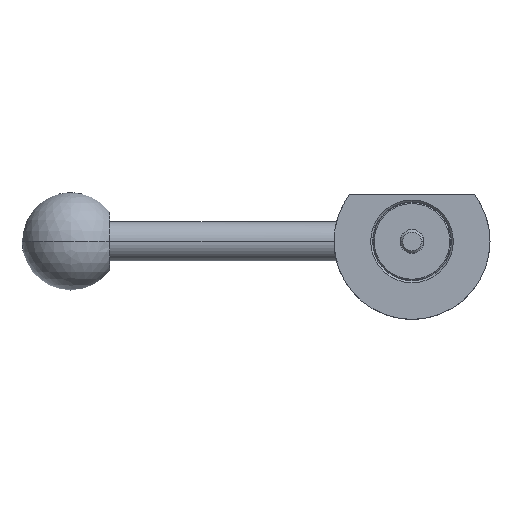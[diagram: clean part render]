
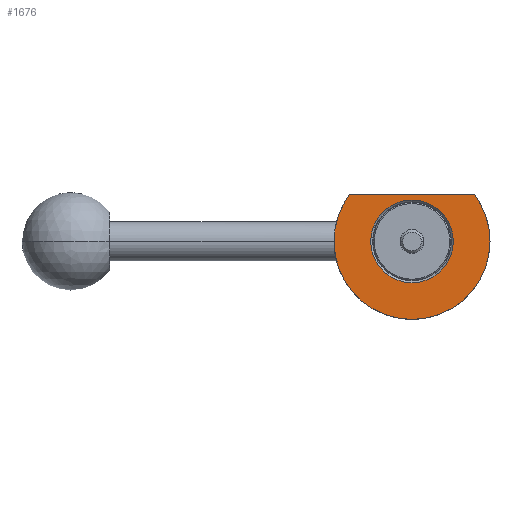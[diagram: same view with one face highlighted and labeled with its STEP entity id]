
A CAD part, front view. The second image highlights one B-rep face of the part: STEP entity #1676.
In plain terms, the highlighted planar face has unit normal (0, -1, 0).
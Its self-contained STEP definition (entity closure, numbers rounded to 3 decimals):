
#8 = DIRECTION ( 'NONE',  ( -1., 0., 0. ) ) ;
#51 = CARTESIAN_POINT ( 'NONE',  ( 10.6, -10., 0. ) ) ;
#90 = DIRECTION ( 'NONE',  ( 0., 1., 0. ) ) ;
#117 = DIRECTION ( 'NONE',  ( 0., 1., 0. ) ) ;
#141 = ORIENTED_EDGE ( 'NONE', *, *, #1747, .T. ) ;
#151 = VERTEX_POINT ( 'NONE', #1686 ) ;
#157 = LINE ( 'NONE', #653, #2001 ) ;
#230 = EDGE_CURVE ( 'NONE', #1684, #1813, #1500, .T. ) ;
#334 = AXIS2_PLACEMENT_3D ( 'NONE', #704, #713, #1202 ) ;
#448 = VERTEX_POINT ( 'NONE', #51 ) ;
#464 = CARTESIAN_POINT ( 'NONE',  ( 16.001, -10., 11.999 ) ) ;
#483 = CARTESIAN_POINT ( 'NONE',  ( -20., -10., 0. ) ) ;
#498 = AXIS2_PLACEMENT_3D ( 'NONE', #1286, #1754, #1505 ) ;
#553 = CARTESIAN_POINT ( 'NONE',  ( 0., -10., 0. ) ) ;
#611 = FACE_OUTER_BOUND ( 'NONE', #1849, .T. ) ;
#651 = EDGE_LOOP ( 'NONE', ( #1058, #919 ) ) ;
#653 = CARTESIAN_POINT ( 'NONE',  ( -10.6, -10., 11.999 ) ) ;
#654 = CARTESIAN_POINT ( 'NONE',  ( 0., -10., 0. ) ) ;
#702 = EDGE_CURVE ( 'NONE', #1813, #1420, #1566, .T. ) ;
#704 = CARTESIAN_POINT ( 'NONE',  ( 0., -10., 0. ) ) ;
#713 = DIRECTION ( 'NONE',  ( 0., 1., 0. ) ) ;
#730 = DIRECTION ( 'NONE',  ( -1., 0., 0. ) ) ;
#809 = EDGE_CURVE ( 'NONE', #1345, #1684, #1399, .T. ) ;
#827 = CIRCLE ( 'NONE', #1660, 10.6 ) ;
#884 = CARTESIAN_POINT ( 'NONE',  ( -10.6, -10., 0. ) ) ;
#898 = ORIENTED_EDGE ( 'NONE', *, *, #702, .F. ) ;
#919 = ORIENTED_EDGE ( 'NONE', *, *, #1206, .T. ) ;
#971 = ORIENTED_EDGE ( 'NONE', *, *, #230, .F. ) ;
#1029 = AXIS2_PLACEMENT_3D ( 'NONE', #884, #1118, #1287 ) ;
#1043 = PLANE ( 'NONE',  #1029 ) ;
#1058 = ORIENTED_EDGE ( 'NONE', *, *, #1534, .T. ) ;
#1118 = DIRECTION ( 'NONE',  ( 0., -1., 0. ) ) ;
#1175 = ORIENTED_EDGE ( 'NONE', *, *, #809, .F. ) ;
#1202 = DIRECTION ( 'NONE',  ( -1., 0., 0. ) ) ;
#1206 = EDGE_CURVE ( 'NONE', #151, #448, #827, .T. ) ;
#1276 = CARTESIAN_POINT ( 'NONE',  ( 20., -10., 0. ) ) ;
#1286 = CARTESIAN_POINT ( 'NONE',  ( 0., -10., 0. ) ) ;
#1287 = DIRECTION ( 'NONE',  ( 1., 0., 0. ) ) ;
#1345 = VERTEX_POINT ( 'NONE', #464 ) ;
#1399 = CIRCLE ( 'NONE', #334, 20. ) ;
#1420 = VERTEX_POINT ( 'NONE', #1472 ) ;
#1472 = CARTESIAN_POINT ( 'NONE',  ( -16.001, -10., 11.999 ) ) ;
#1500 = CIRCLE ( 'NONE', #2032, 20. ) ;
#1505 = DIRECTION ( 'NONE',  ( -1., 0., 0. ) ) ;
#1534 = EDGE_CURVE ( 'NONE', #448, #151, #1596, .T. ) ;
#1566 = CIRCLE ( 'NONE', #1869, 20. ) ;
#1587 = DIRECTION ( 'NONE',  ( -1., 0., 0. ) ) ;
#1596 = CIRCLE ( 'NONE', #498, 10.6 ) ;
#1660 = AXIS2_PLACEMENT_3D ( 'NONE', #654, #1759, #2044 ) ;
#1676 = ADVANCED_FACE ( 'NONE', ( #2042, #611 ), #1043, .T. ) ;
#1684 = VERTEX_POINT ( 'NONE', #1276 ) ;
#1686 = CARTESIAN_POINT ( 'NONE',  ( -10.6, -10., 0. ) ) ;
#1715 = CARTESIAN_POINT ( 'NONE',  ( 0., -10., 0. ) ) ;
#1747 = EDGE_CURVE ( 'NONE', #1345, #1420, #157, .T. ) ;
#1754 = DIRECTION ( 'NONE',  ( 0., 1., 0. ) ) ;
#1759 = DIRECTION ( 'NONE',  ( 0., 1., 0. ) ) ;
#1813 = VERTEX_POINT ( 'NONE', #483 ) ;
#1849 = EDGE_LOOP ( 'NONE', ( #1175, #141, #898, #971 ) ) ;
#1869 = AXIS2_PLACEMENT_3D ( 'NONE', #553, #90, #730 ) ;
#2001 = VECTOR ( 'NONE', #8, 1000. ) ;
#2032 = AXIS2_PLACEMENT_3D ( 'NONE', #1715, #117, #1587 ) ;
#2042 = FACE_BOUND ( 'NONE', #651, .T. ) ;
#2044 = DIRECTION ( 'NONE',  ( -1., 0., 0. ) ) ;
